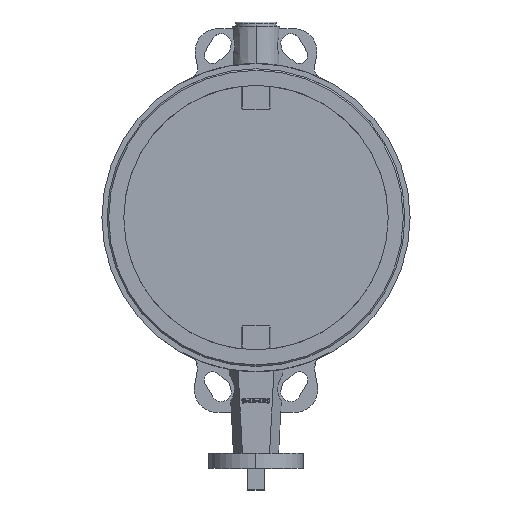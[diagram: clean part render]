
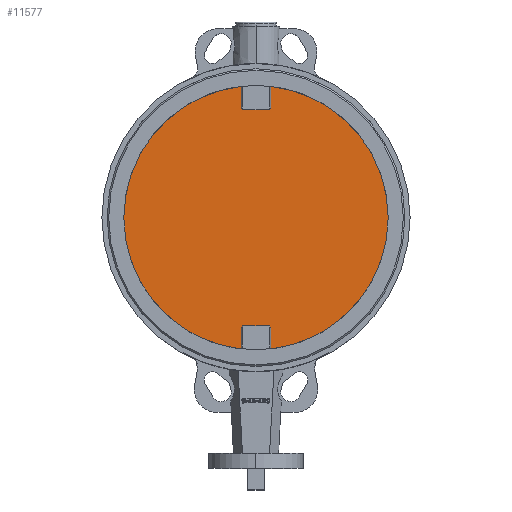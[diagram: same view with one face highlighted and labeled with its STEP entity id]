
A CAD part, top view. The second image highlights one B-rep face of the part: STEP entity #11577.
In plain terms, the highlighted planar face has unit normal (0, 0, 1).
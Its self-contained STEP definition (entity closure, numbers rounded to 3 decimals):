
#10607=CARTESIAN_POINT('',(-175.0,0.,41.6));
#10608=VERTEX_POINT('',#10607);
#10664=CARTESIAN_POINT('',(175.0,0.,41.6));
#10665=VERTEX_POINT('',#10664);
#10672=CARTESIAN_POINT('',(19.602,-173.899,41.6));
#10673=VERTEX_POINT('',#10672);
#10674=CARTESIAN_POINT('',(0.0,0.,41.6));
#10675=DIRECTION('',(0.0,0.0,-1.0));
#10676=DIRECTION('',(1.0,0.0,0.0));
#10677=AXIS2_PLACEMENT_3D('',#10674,#10675,#10676);
#10678=CIRCLE('',#10677,175.0);
#10679=EDGE_CURVE('',#10665,#10673,#10678,.T.);
#10701=CARTESIAN_POINT('',(-19.602,-173.899,41.6));
#10702=VERTEX_POINT('',#10701);
#10712=CARTESIAN_POINT('',(0.0,0.,41.6));
#10713=DIRECTION('',(0.0,0.0,-1.0));
#10714=DIRECTION('',(1.0,0.0,0.0));
#10715=AXIS2_PLACEMENT_3D('',#10712,#10713,#10714);
#10716=CIRCLE('',#10715,175.0);
#10717=EDGE_CURVE('',#10702,#10608,#10716,.T.);
#10992=CARTESIAN_POINT('',(-17.583,143.158,41.6));
#10993=VERTEX_POINT('',#10992);
#11001=CARTESIAN_POINT('',(17.583,143.158,41.6));
#11002=VERTEX_POINT('',#11001);
#11003=CARTESIAN_POINT('',(-17.583,143.158,41.6));
#11004=DIRECTION('',(1.0,0.0,0.0));
#11005=VECTOR('',#11004,35.165);
#11006=LINE('',#11003,#11005);
#11007=EDGE_CURVE('',#10993,#11002,#11006,.T.);
#11025=CARTESIAN_POINT('',(-19.602,145.158,41.6));
#11026=VERTEX_POINT('',#11025);
#11034=CARTESIAN_POINT('',(-19.602,145.158,41.6));
#11035=CARTESIAN_POINT('',(-18.538,144.104,41.6));
#11036=CARTESIAN_POINT('',(-17.583,143.158,41.6));
#11044=(BOUNDED_CURVE()B_SPLINE_CURVE(2,(#11034,#11035,#11036),.UNSPECIFIED.,.F.,.U.)B_SPLINE_CURVE_WITH_KNOTS((3,3),(0.0,2.842),.UNSPECIFIED.)CURVE()GEOMETRIC_REPRESENTATION_ITEM()RATIONAL_B_SPLINE_CURVE((1.0,1.001,1.0))REPRESENTATION_ITEM(''));
#11045=EDGE_CURVE('',#11026,#10993,#11044,.T.);
#11058=CARTESIAN_POINT('',(19.602,145.158,41.6));
#11059=VERTEX_POINT('',#11058);
#11060=CARTESIAN_POINT('',(17.583,143.158,41.6));
#11061=CARTESIAN_POINT('',(18.538,144.104,41.6));
#11062=CARTESIAN_POINT('',(19.602,145.158,41.6));
#11070=(BOUNDED_CURVE()B_SPLINE_CURVE(2,(#11060,#11061,#11062),.UNSPECIFIED.,.F.,.U.)B_SPLINE_CURVE_WITH_KNOTS((3,3),(0.0,2.842),.UNSPECIFIED.)CURVE()GEOMETRIC_REPRESENTATION_ITEM()RATIONAL_B_SPLINE_CURVE((1.0,1.001,1.0))REPRESENTATION_ITEM(''));
#11071=EDGE_CURVE('',#11002,#11059,#11070,.T.);
#11089=CARTESIAN_POINT('',(-19.602,173.899,41.6));
#11090=VERTEX_POINT('',#11089);
#11100=CARTESIAN_POINT('',(-19.602,173.899,41.6));
#11101=DIRECTION('',(0.0,-1.0,0.0));
#11102=VECTOR('',#11101,28.741);
#11103=LINE('',#11100,#11102);
#11104=EDGE_CURVE('',#11090,#11026,#11103,.T.);
#11117=CARTESIAN_POINT('',(19.602,173.899,41.6));
#11118=VERTEX_POINT('',#11117);
#11119=CARTESIAN_POINT('',(19.602,145.158,41.6));
#11120=DIRECTION('',(0.0,1.0,0.0));
#11121=VECTOR('',#11120,28.741);
#11122=LINE('',#11119,#11121);
#11123=EDGE_CURVE('',#11059,#11118,#11122,.T.);
#11309=CARTESIAN_POINT('',(0.0,0.,41.6));
#11310=DIRECTION('',(0.0,0.0,-1.0));
#11311=DIRECTION('',(1.0,0.0,0.0));
#11312=AXIS2_PLACEMENT_3D('',#11309,#11310,#11311);
#11313=CIRCLE('',#11312,175.0);
#11314=EDGE_CURVE('',#10608,#11090,#11313,.T.);
#11319=CARTESIAN_POINT('',(0.0,0.,41.6));
#11320=DIRECTION('',(0.0,0.0,-1.0));
#11321=DIRECTION('',(1.0,0.0,0.0));
#11322=AXIS2_PLACEMENT_3D('',#11319,#11320,#11321);
#11323=CIRCLE('',#11322,175.0);
#11324=EDGE_CURVE('',#11118,#10665,#11323,.T.);
#11384=CARTESIAN_POINT('',(-19.602,-145.158,41.6));
#11385=VERTEX_POINT('',#11384);
#11393=CARTESIAN_POINT('',(-19.602,-145.158,41.6));
#11394=DIRECTION('',(0.0,-1.0,0.0));
#11395=VECTOR('',#11394,28.741);
#11396=LINE('',#11393,#11395);
#11397=EDGE_CURVE('',#11385,#10702,#11396,.T.);
#11430=CARTESIAN_POINT('',(-17.583,-143.158,41.6));
#11431=VERTEX_POINT('',#11430);
#11439=CARTESIAN_POINT('',(-17.583,-143.158,41.6));
#11440=CARTESIAN_POINT('',(-18.538,-144.104,41.6));
#11441=CARTESIAN_POINT('',(-19.602,-145.158,41.6));
#11449=(BOUNDED_CURVE()B_SPLINE_CURVE(2,(#11439,#11440,#11441),.UNSPECIFIED.,.F.,.U.)B_SPLINE_CURVE_WITH_KNOTS((3,3),(0.0,2.842),.UNSPECIFIED.)CURVE()GEOMETRIC_REPRESENTATION_ITEM()RATIONAL_B_SPLINE_CURVE((1.0,1.001,1.0))REPRESENTATION_ITEM(''));
#11450=EDGE_CURVE('',#11431,#11385,#11449,.T.);
#11530=CARTESIAN_POINT('',(0.0,0.,41.6));
#11531=DIRECTION('',(0.0,0.0,-1.0));
#11532=DIRECTION('',(1.0,0.0,0.0));
#11533=AXIS2_PLACEMENT_3D('',#11530,#11531,#11532);
#11534=PLANE('',#11533);
#11535=CARTESIAN_POINT('',(19.602,-145.158,41.6));
#11536=VERTEX_POINT('',#11535);
#11537=CARTESIAN_POINT('',(19.602,-173.899,41.6));
#11538=DIRECTION('',(0.0,1.0,0.0));
#11539=VECTOR('',#11538,28.741);
#11540=LINE('',#11537,#11539);
#11541=EDGE_CURVE('',#10673,#11536,#11540,.T.);
#11542=ORIENTED_EDGE('',*,*,#11541,.F.);
#11543=ORIENTED_EDGE('',*,*,#10679,.F.);
#11544=ORIENTED_EDGE('',*,*,#11324,.F.);
#11545=ORIENTED_EDGE('',*,*,#11123,.F.);
#11546=ORIENTED_EDGE('',*,*,#11071,.F.);
#11547=ORIENTED_EDGE('',*,*,#11007,.F.);
#11548=ORIENTED_EDGE('',*,*,#11045,.F.);
#11549=ORIENTED_EDGE('',*,*,#11104,.F.);
#11550=ORIENTED_EDGE('',*,*,#11314,.F.);
#11551=ORIENTED_EDGE('',*,*,#10717,.F.);
#11552=ORIENTED_EDGE('',*,*,#11397,.F.);
#11553=ORIENTED_EDGE('',*,*,#11450,.F.);
#11554=CARTESIAN_POINT('',(17.583,-143.158,41.6));
#11555=VERTEX_POINT('',#11554);
#11556=CARTESIAN_POINT('',(17.583,-143.158,41.6));
#11557=DIRECTION('',(-1.0,0.0,0.0));
#11558=VECTOR('',#11557,35.165);
#11559=LINE('',#11556,#11558);
#11560=EDGE_CURVE('',#11555,#11431,#11559,.T.);
#11561=ORIENTED_EDGE('',*,*,#11560,.F.);
#11562=CARTESIAN_POINT('',(19.602,-145.158,41.6));
#11563=CARTESIAN_POINT('',(18.538,-144.104,41.6));
#11564=CARTESIAN_POINT('',(17.583,-143.158,41.6));
#11572=(BOUNDED_CURVE()B_SPLINE_CURVE(2,(#11562,#11563,#11564),.UNSPECIFIED.,.F.,.U.)B_SPLINE_CURVE_WITH_KNOTS((3,3),(0.0,2.842),.UNSPECIFIED.)CURVE()GEOMETRIC_REPRESENTATION_ITEM()RATIONAL_B_SPLINE_CURVE((1.0,1.001,1.0))REPRESENTATION_ITEM(''));
#11573=EDGE_CURVE('',#11536,#11555,#11572,.T.);
#11574=ORIENTED_EDGE('',*,*,#11573,.F.);
#11575=EDGE_LOOP('',(#11542,#11543,#11544,#11545,#11546,#11547,#11548,#11549,#11550,#11551,#11552,#11553,#11561,#11574));
#11576=FACE_OUTER_BOUND('',#11575,.T.);
#11577=ADVANCED_FACE('',(#11576),#11534,.F.);
